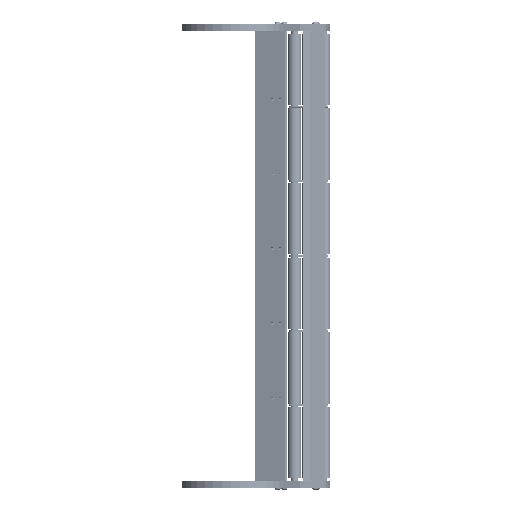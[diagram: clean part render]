
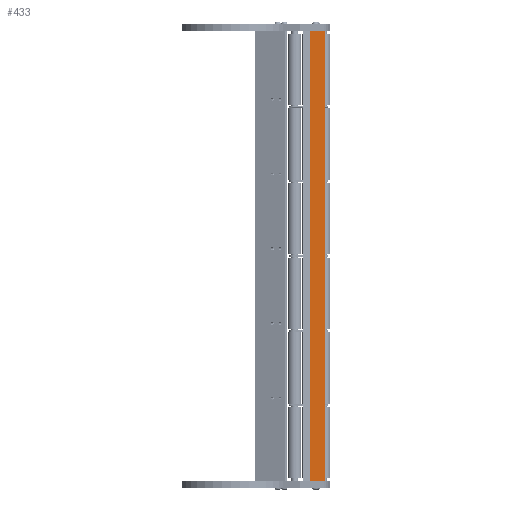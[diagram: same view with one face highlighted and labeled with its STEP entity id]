
A CAD part, front view. The second image highlights one B-rep face of the part: STEP entity #433.
In plain terms, the highlighted planar face has unit normal (0.768, -0.641, 0) as drawn and (0, 1, 0) by its records, which use the part's own axes.
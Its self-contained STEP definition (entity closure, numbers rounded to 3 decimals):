
#88 = CARTESIAN_POINT ( 'NONE',  ( 0., 13.9, 494. ) ) ;
#244 = DIRECTION ( 'NONE',  ( 0., -1., 0. ) ) ;
#433 = ADVANCED_FACE ( 'NONE', ( #1713 ), #15722, .F. ) ;
#628 = LINE ( 'NONE', #10465, #17830 ) ;
#1330 = CARTESIAN_POINT ( 'NONE',  ( 25., 13.9, 0. ) ) ;
#1473 = CARTESIAN_POINT ( 'NONE',  ( 25., 13.9, 494. ) ) ;
#1491 = ORIENTED_EDGE ( 'NONE', *, *, #2586, .F. ) ;
#1713 = FACE_OUTER_BOUND ( 'NONE', #13761, .T. ) ;
#1802 = CARTESIAN_POINT ( 'NONE',  ( 25., 13.9, 494. ) ) ;
#2081 = VECTOR ( 'NONE', #8459, 1000. ) ;
#2586 = EDGE_CURVE ( 'NONE', #12066, #8011, #16563, .T. ) ;
#2657 = VERTEX_POINT ( 'NONE', #1330 ) ;
#2690 = VERTEX_POINT ( 'NONE', #6931 ) ;
#2806 = ORIENTED_EDGE ( 'NONE', *, *, #13978, .F. ) ;
#2925 = CARTESIAN_POINT ( 'NONE',  ( 25., 13.9, 494. ) ) ;
#4134 = AXIS2_PLACEMENT_3D ( 'NONE', #1802, #244, #14339 ) ;
#4311 = LINE ( 'NONE', #2925, #11521 ) ;
#4452 = CARTESIAN_POINT ( 'NONE',  ( 0., 13.9, 0. ) ) ;
#5000 = CARTESIAN_POINT ( 'NONE',  ( 0., 13.9, 494. ) ) ;
#6931 = CARTESIAN_POINT ( 'NONE',  ( 25., 13.9, 494. ) ) ;
#8011 = VERTEX_POINT ( 'NONE', #4452 ) ;
#8459 = DIRECTION ( 'NONE',  ( -1., 0., 0. ) ) ;
#8550 = DIRECTION ( 'NONE',  ( 0., 0., -1. ) ) ;
#8563 = EDGE_CURVE ( 'NONE', #2657, #8011, #628, .T. ) ;
#8796 = VECTOR ( 'NONE', #13681, 1000. ) ;
#10465 = CARTESIAN_POINT ( 'NONE',  ( 25., 13.9, 0. ) ) ;
#11521 = VECTOR ( 'NONE', #8550, 1000. ) ;
#12066 = VERTEX_POINT ( 'NONE', #88 ) ;
#12780 = LINE ( 'NONE', #1473, #2081 ) ;
#13681 = DIRECTION ( 'NONE',  ( 0., 0., -1. ) ) ;
#13761 = EDGE_LOOP ( 'NONE', ( #14789, #1491, #2806, #14250 ) ) ;
#13978 = EDGE_CURVE ( 'NONE', #2690, #12066, #12780, .T. ) ;
#14250 = ORIENTED_EDGE ( 'NONE', *, *, #15170, .T. ) ;
#14339 = DIRECTION ( 'NONE',  ( 1., 0., 0. ) ) ;
#14789 = ORIENTED_EDGE ( 'NONE', *, *, #8563, .T. ) ;
#15170 = EDGE_CURVE ( 'NONE', #2690, #2657, #4311, .T. ) ;
#15722 = PLANE ( 'NONE',  #4134 ) ;
#16124 = DIRECTION ( 'NONE',  ( -1., 0., 0. ) ) ;
#16563 = LINE ( 'NONE', #5000, #8796 ) ;
#17830 = VECTOR ( 'NONE', #16124, 1000. ) ;
